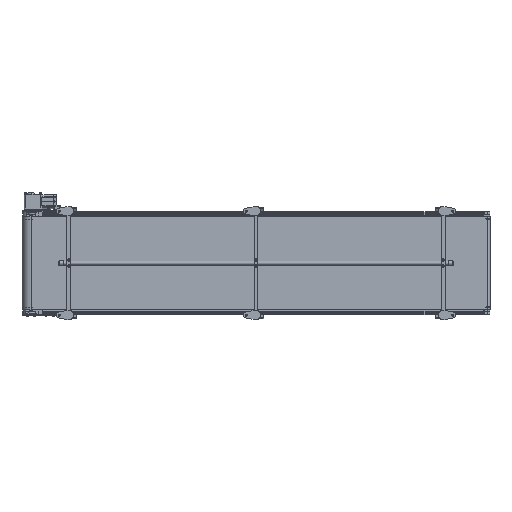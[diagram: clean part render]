
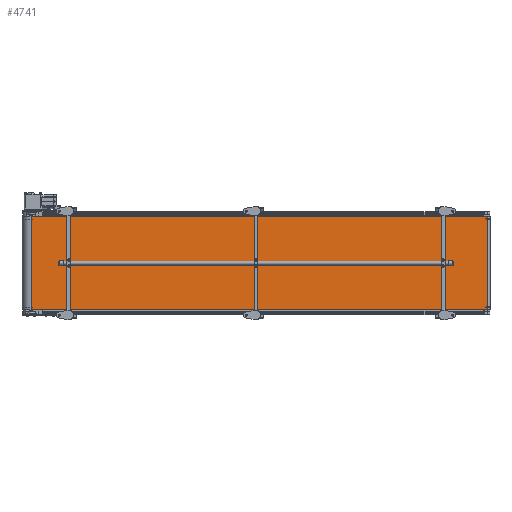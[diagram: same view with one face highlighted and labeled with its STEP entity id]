
A CAD part, front view. The second image highlights one B-rep face of the part: STEP entity #4741.
In plain terms, the highlighted planar face has unit normal (0.028, -1, 0).
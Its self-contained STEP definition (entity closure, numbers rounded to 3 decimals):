
#4741=ADVANCED_FACE('',(#31687),#31686,.F.);
#31686=PLANE('',#48058);
#31687=FACE_OUTER_BOUND('',#48059,.T.);
#48055=CARTESIAN_POINT('',(2992.998,-33.417,-310.));
#48056=DIRECTION('',(-0.028,1.,0.));
#48057=DIRECTION('',(-1.,-0.028,0.));
#48058=AXIS2_PLACEMENT_3D('',#48055,#48056,#48057);
#48059=EDGE_LOOP('',(#61975,#61976,#61977,#61978));
#61975=ORIENTED_EDGE('',*,*,#69315,.T.);
#61976=ORIENTED_EDGE('',*,*,#69322,.F.);
#61977=ORIENTED_EDGE('',*,*,#69309,.F.);
#61978=ORIENTED_EDGE('',*,*,#69323,.T.);
#69309=EDGE_CURVE('',#113838,#113823,#113845,.T.);
#69315=EDGE_CURVE('',#113887,#113879,#113888,.T.);
#69322=EDGE_CURVE('',#113823,#113879,#113935,.T.);
#69323=EDGE_CURVE('',#113838,#113887,#113941,.T.);
#113823=VERTEX_POINT('',#143374);
#113838=VERTEX_POINT('',#143384);
#113845=LINE('',#143389,#143390);
#113879=VERTEX_POINT('',#143410);
#113887=VERTEX_POINT('',#143416);
#113888=LINE('',#143417,#143418);
#113935=LINE('',#143446,#143447);
#113941=LINE('',#143449,#143450);
#143374=CARTESIAN_POINT('',(2983.002,-33.693,300.));
#143384=CARTESIAN_POINT('',(59.109,-114.328,300.));
#143389=CARTESIAN_POINT('',(59.109,-114.328,300.));
#143390=VECTOR('',#143391,2925.005);
#143391=DIRECTION('',(1.,0.028,0.));
#143410=CARTESIAN_POINT('',(2983.002,-33.693,-300.));
#143416=CARTESIAN_POINT('',(59.109,-114.328,-300.));
#143417=CARTESIAN_POINT('',(59.109,-114.328,-300.));
#143418=VECTOR('',#143419,2925.005);
#143419=DIRECTION('',(1.,0.028,0.));
#143446=CARTESIAN_POINT('',(2983.002,-33.693,300.));
#143447=VECTOR('',#143448,600.);
#143448=DIRECTION('',(0.,0.,-1.));
#143449=CARTESIAN_POINT('',(59.109,-114.328,300.));
#143450=VECTOR('',#143451,600.);
#143451=DIRECTION('',(0.,0.,-1.));
